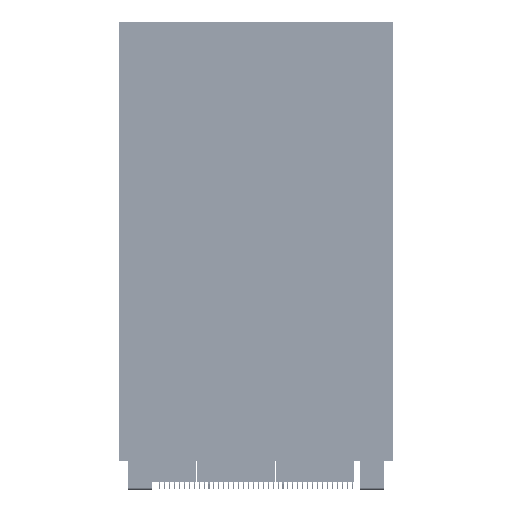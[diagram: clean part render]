
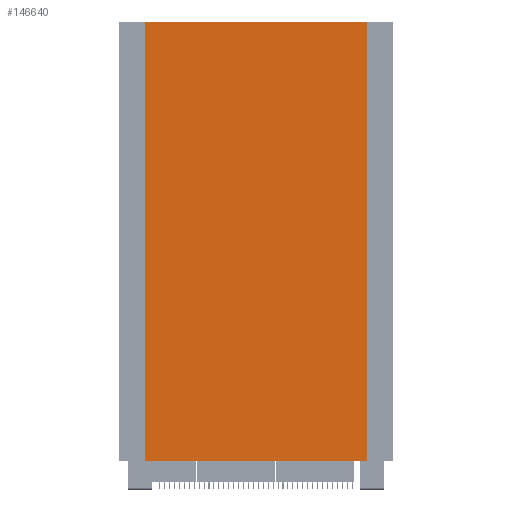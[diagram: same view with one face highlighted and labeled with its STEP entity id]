
A CAD part, front view. The second image highlights one B-rep face of the part: STEP entity #146640.
In plain terms, the highlighted planar face has unit normal (0, -1, 0).
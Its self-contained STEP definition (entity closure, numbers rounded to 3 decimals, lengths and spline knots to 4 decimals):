
#11486 = LINE ( 'NONE', #341907, #449724 ) ;
#57080 = DIRECTION ( 'NONE',  ( -1., 0., 0. ) ) ;
#64544 = DIRECTION ( 'NONE',  ( 0., 0., 1. ) ) ;
#71886 = CARTESIAN_POINT ( 'NONE',  ( 0., -0.755, -6.2992 ) ) ;
#146640 = ADVANCED_FACE ( 'NONE', ( #221395 ), #741896, .F. ) ;
#149076 = VERTEX_POINT ( 'NONE', #405189 ) ;
#151369 = EDGE_CURVE ( 'NONE', #370921, #578550, #598027, .T. ) ;
#158810 = LINE ( 'NONE', #71886, #426973 ) ;
#159929 = VECTOR ( 'NONE', #64544, 39.3701 ) ;
#221395 = FACE_OUTER_BOUND ( 'NONE', #365833, .T. ) ;
#261340 = ORIENTED_EDGE ( 'NONE', *, *, #677718, .T. ) ;
#273518 = VERTEX_POINT ( 'NONE', #585411 ) ;
#294899 = ORIENTED_EDGE ( 'NONE', *, *, #546069, .F. ) ;
#333688 = CARTESIAN_POINT ( 'NONE',  ( -1.5985, -0.755, 0. ) ) ;
#341907 = CARTESIAN_POINT ( 'NONE',  ( 1.5985, -0.755, -6.2992 ) ) ;
#356782 = DIRECTION ( 'NONE',  ( -1., 0., 0. ) ) ;
#365833 = EDGE_LOOP ( 'NONE', ( #261340, #724535, #294899, #659754 ) ) ;
#370921 = VERTEX_POINT ( 'NONE', #658887 ) ;
#399360 = DIRECTION ( 'NONE',  ( 0., 0., 1. ) ) ;
#399455 = DIRECTION ( 'NONE',  ( 0., 1., 0. ) ) ;
#405189 = CARTESIAN_POINT ( 'NONE',  ( 1.5985, -0.755, -6.2992 ) ) ;
#406912 = CARTESIAN_POINT ( 'NONE',  ( -1.5985, -0.755, -6.2992 ) ) ;
#412278 = LINE ( 'NONE', #436060, #680599 ) ;
#426973 = VECTOR ( 'NONE', #356782, 39.3701 ) ;
#436060 = CARTESIAN_POINT ( 'NONE',  ( 0., -0.755, 0. ) ) ;
#449724 = VECTOR ( 'NONE', #399360, 39.3701 ) ;
#546069 = EDGE_CURVE ( 'NONE', #149076, #370921, #158810, .T. ) ;
#569918 = EDGE_CURVE ( 'NONE', #149076, #273518, #11486, .T. ) ;
#578550 = VERTEX_POINT ( 'NONE', #333688 ) ;
#585411 = CARTESIAN_POINT ( 'NONE',  ( 1.5985, -0.755, 0. ) ) ;
#598027 = LINE ( 'NONE', #406912, #159929 ) ;
#626934 = CARTESIAN_POINT ( 'NONE',  ( 0., -0.755, -6.2992 ) ) ;
#658887 = CARTESIAN_POINT ( 'NONE',  ( -1.5985, -0.755, -6.2992 ) ) ;
#659754 = ORIENTED_EDGE ( 'NONE', *, *, #569918, .T. ) ;
#663604 = DIRECTION ( 'NONE',  ( -1., 0., 0. ) ) ;
#677718 = EDGE_CURVE ( 'NONE', #273518, #578550, #412278, .T. ) ;
#680599 = VECTOR ( 'NONE', #663604, 39.3701 ) ;
#696460 = AXIS2_PLACEMENT_3D ( 'NONE', #626934, #399455, #57080 ) ;
#724535 = ORIENTED_EDGE ( 'NONE', *, *, #151369, .F. ) ;
#741896 = PLANE ( 'NONE',  #696460 ) ;
